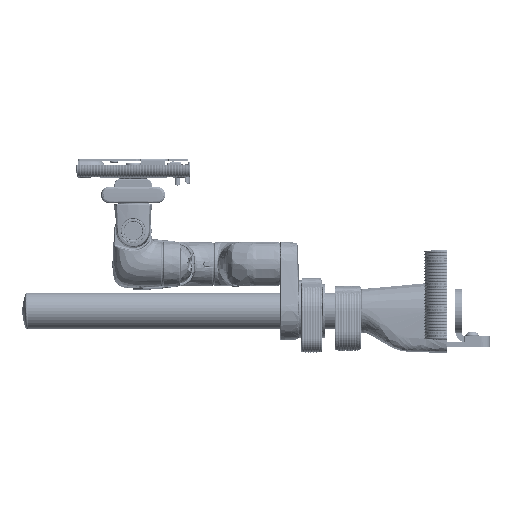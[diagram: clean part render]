
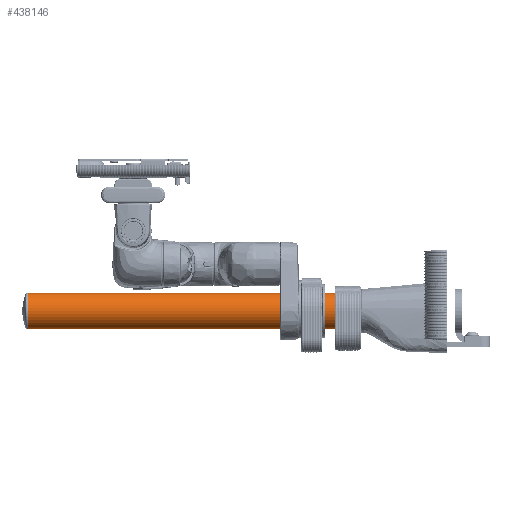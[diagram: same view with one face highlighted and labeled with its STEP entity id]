
A CAD part, left-side view. The second image highlights one B-rep face of the part: STEP entity #438146.
In plain terms, the highlighted cylindrical face has radius 19 mm (diameter 38 mm), a partial arc.
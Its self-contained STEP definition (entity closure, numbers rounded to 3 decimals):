
#5258=FACE_BOUND('',#75031,.T.);
#5259=FACE_BOUND('',#75032,.T.);
#29643=CYLINDRICAL_SURFACE('',#470233,19.);
#47470=FACE_OUTER_BOUND('',#75030,.T.);
#75030=EDGE_LOOP('',(#365718,#365719,#365720,#365721,#365722,#365723,#365724,
#365725,#365726,#365727,#365728,#365729));
#75031=EDGE_LOOP('',(#365730,#365731));
#75032=EDGE_LOOP('',(#365732,#365733));
#98963=B_SPLINE_CURVE_WITH_KNOTS('',3,(#942340,#942341,#942342,#942343),
 .UNSPECIFIED.,.F.,.F.,(4,4),(-0.84,-0.661),
 .UNSPECIFIED.);
#98966=B_SPLINE_CURVE_WITH_KNOTS('',3,(#942377,#942378,#942379,#942380),
 .UNSPECIFIED.,.F.,.F.,(4,4),(0.661,0.84),
 .UNSPECIFIED.);
#98967=B_SPLINE_CURVE_WITH_KNOTS('',3,(#942386,#942387,#942388,#942389),
 .UNSPECIFIED.,.F.,.F.,(4,4),(1.58,1.759),
 .UNSPECIFIED.);
#98970=B_SPLINE_CURVE_WITH_KNOTS('',3,(#942423,#942424,#942425,#942426),
 .UNSPECIFIED.,.F.,.F.,(4,4),(3.081,3.26),
 .UNSPECIFIED.);
#98981=B_SPLINE_CURVE_WITH_KNOTS('',3,(#942737,#942738,#942739,#942740,
#942741,#942742,#942743,#942744,#942745,#942746,#942747,#942748,#942749,
#942750),.UNSPECIFIED.,.F.,.F.,(4,2,2,2,2,2,4),(1.759,1.829,
2.124,2.42,2.701,2.983,3.08),
 .UNSPECIFIED.);
#98982=B_SPLINE_CURVE_WITH_KNOTS('',3,(#942754,#942755,#942756,#942757,
#942758,#942759,#942760,#942761,#942762,#942763,#942764,#942765,#942766,
#942767,#942768),.UNSPECIFIED.,.F.,.F.,(4,2,2,3,2,2,4),(-0.661,
-0.591,-0.295,0.,0.295,0.591,
0.661),.UNSPECIFIED.);
#114069=CIRCLE('',#470180,19.);
#114093=CIRCLE('',#470234,19.);
#114094=CIRCLE('',#470235,19.);
#114095=CIRCLE('',#470236,19.);
#135863=LINE('',#942670,#165184);
#135864=LINE('',#942679,#165185);
#135873=LINE('',#942753,#165194);
#135874=LINE('',#942769,#165195);
#165184=VECTOR('',#542876,10.);
#165185=VECTOR('',#542879,10.);
#165194=VECTOR('',#542906,10.);
#165195=VECTOR('',#542907,10.);
#202642=VERTEX_POINT('',#942336);
#202644=VERTEX_POINT('',#942339);
#202646=VERTEX_POINT('',#942360);
#202647=VERTEX_POINT('',#942362);
#202648=VERTEX_POINT('',#942382);
#202650=VERTEX_POINT('',#942385);
#202652=VERTEX_POINT('',#942406);
#202653=VERTEX_POINT('',#942408);
#202691=VERTEX_POINT('',#942510);
#202697=VERTEX_POINT('',#942522);
#202732=VERTEX_POINT('',#942668);
#202742=VERTEX_POINT('',#942751);
#202743=VERTEX_POINT('',#942770);
#202744=VERTEX_POINT('',#942771);
#202745=VERTEX_POINT('',#942773);
#202746=VERTEX_POINT('',#942774);
#259196=EDGE_CURVE('',#202644,#202642,#98963,.T.);
#259200=EDGE_CURVE('',#202646,#202647,#98966,.T.);
#259202=EDGE_CURVE('',#202650,#202648,#98967,.T.);
#259206=EDGE_CURVE('',#202652,#202653,#98970,.T.);
#259250=EDGE_CURVE('',#202697,#202691,#114069,.T.);
#259301=EDGE_CURVE('',#202732,#202653,#135863,.T.);
#259303=EDGE_CURVE('',#202650,#202697,#135864,.T.);
#259317=EDGE_CURVE('',#202648,#202652,#98981,.T.);
#259318=EDGE_CURVE('',#202742,#202732,#114093,.T.);
#259319=EDGE_CURVE('',#202644,#202742,#135873,.T.);
#259320=EDGE_CURVE('',#202642,#202646,#98982,.T.);
#259321=EDGE_CURVE('',#202691,#202647,#135874,.T.);
#259322=EDGE_CURVE('',#202743,#202744,#114094,.T.);
#259323=EDGE_CURVE('',#202745,#202746,#114095,.T.);
#365718=ORIENTED_EDGE('',*,*,#259202,.T.);
#365719=ORIENTED_EDGE('',*,*,#259317,.T.);
#365720=ORIENTED_EDGE('',*,*,#259206,.T.);
#365721=ORIENTED_EDGE('',*,*,#259301,.F.);
#365722=ORIENTED_EDGE('',*,*,#259318,.F.);
#365723=ORIENTED_EDGE('',*,*,#259319,.F.);
#365724=ORIENTED_EDGE('',*,*,#259196,.T.);
#365725=ORIENTED_EDGE('',*,*,#259320,.T.);
#365726=ORIENTED_EDGE('',*,*,#259200,.T.);
#365727=ORIENTED_EDGE('',*,*,#259321,.F.);
#365728=ORIENTED_EDGE('',*,*,#259250,.F.);
#365729=ORIENTED_EDGE('',*,*,#259303,.F.);
#365730=ORIENTED_EDGE('',*,*,#259322,.F.);
#365731=ORIENTED_EDGE('',*,*,#259322,.T.);
#365732=ORIENTED_EDGE('',*,*,#259323,.T.);
#365733=ORIENTED_EDGE('',*,*,#259323,.F.);
#438146=ADVANCED_FACE('',(#47470,#5258,#5259),#29643,.T.);
#470180=AXIS2_PLACEMENT_3D('',#942524,#542775,#542776);
#470233=AXIS2_PLACEMENT_3D('',#942736,#542902,#542903);
#470234=AXIS2_PLACEMENT_3D('',#942752,#542904,#542905);
#470235=AXIS2_PLACEMENT_3D('',#942772,#542908,#542909);
#470236=AXIS2_PLACEMENT_3D('',#942775,#542910,#542911);
#542775=DIRECTION('center_axis',(0.,1.,0.));
#542776=DIRECTION('ref_axis',(0.165,0.,0.986));
#542876=DIRECTION('',(0.,1.,0.));
#542879=DIRECTION('',(0.,1.,0.));
#542902=DIRECTION('center_axis',(0.,1.,0.));
#542903=DIRECTION('ref_axis',(0.,0.,
-1.));
#542904=DIRECTION('center_axis',(0.,-1.,0.));
#542905=DIRECTION('ref_axis',(0.165,0.,0.986));
#542906=DIRECTION('',(0.,-1.,0.));
#542907=DIRECTION('',(0.,-1.,0.));
#542908=DIRECTION('center_axis',(0.,1.,0.));
#542909=DIRECTION('ref_axis',(1.,0.,0.));
#542910=DIRECTION('center_axis',(0.,-1.,0.));
#542911=DIRECTION('ref_axis',(-1.,0.,0.));
#942336=CARTESIAN_POINT('',(-4.927,97.547,18.35));
#942339=CARTESIAN_POINT('',(-3.553,96.332,18.665));
#942340=CARTESIAN_POINT('Ctrl Pts',(-3.553,96.332,
18.665));
#942341=CARTESIAN_POINT('Ctrl Pts',(-4.063,96.681,18.568));
#942342=CARTESIAN_POINT('Ctrl Pts',(-4.526,97.097,18.458));
#942343=CARTESIAN_POINT('Ctrl Pts',(-4.927,97.547,
18.35));
#942360=CARTESIAN_POINT('',(-4.927,110.153,18.35));
#942362=CARTESIAN_POINT('',(-3.553,111.368,18.665));
#942377=CARTESIAN_POINT('Ctrl Pts',(-4.927,110.153,18.35));
#942378=CARTESIAN_POINT('Ctrl Pts',(-4.526,110.603,
18.458));
#942379=CARTESIAN_POINT('Ctrl Pts',(-4.063,111.019,18.568));
#942380=CARTESIAN_POINT('Ctrl Pts',(-3.553,111.368,
18.665));
#942382=CARTESIAN_POINT('',(4.927,110.153,18.35));
#942385=CARTESIAN_POINT('',(3.553,111.368,18.665));
#942386=CARTESIAN_POINT('Ctrl Pts',(3.553,111.368,18.665));
#942387=CARTESIAN_POINT('Ctrl Pts',(4.063,111.019,18.568));
#942388=CARTESIAN_POINT('Ctrl Pts',(4.526,110.603,18.458));
#942389=CARTESIAN_POINT('Ctrl Pts',(4.927,110.153,18.35));
#942406=CARTESIAN_POINT('',(4.927,97.547,18.35));
#942408=CARTESIAN_POINT('',(3.553,96.332,18.665));
#942423=CARTESIAN_POINT('Ctrl Pts',(4.927,97.547,18.35));
#942424=CARTESIAN_POINT('Ctrl Pts',(4.526,97.097,18.458));
#942425=CARTESIAN_POINT('Ctrl Pts',(4.063,96.681,18.568));
#942426=CARTESIAN_POINT('Ctrl Pts',(3.553,96.332,18.665));
#942510=CARTESIAN_POINT('',(-3.553,440.,18.665));
#942522=CARTESIAN_POINT('',(3.553,440.,18.665));
#942524=CARTESIAN_POINT('Origin',(0.,440.,0.));
#942668=CARTESIAN_POINT('',(3.553,90.,18.665));
#942670=CARTESIAN_POINT('',(3.553,90.,18.665));
#942679=CARTESIAN_POINT('',(3.553,90.,18.665));
#942736=CARTESIAN_POINT('Origin',(0.,90.,
0.));
#942737=CARTESIAN_POINT('Ctrl Pts',(4.927,110.153,18.35));
#942738=CARTESIAN_POINT('Ctrl Pts',(5.084,109.976,18.308));
#942739=CARTESIAN_POINT('Ctrl Pts',(5.232,109.794,18.266));
#942740=CARTESIAN_POINT('Ctrl Pts',(5.952,108.834,18.054));
#942741=CARTESIAN_POINT('Ctrl Pts',(6.436,107.895,17.88));
#942742=CARTESIAN_POINT('Ctrl Pts',(7.072,105.895,17.638));
#942743=CARTESIAN_POINT('Ctrl Pts',(7.223,104.835,17.573));
#942744=CARTESIAN_POINT('Ctrl Pts',(7.223,102.912,17.573));
#942745=CARTESIAN_POINT('Ctrl Pts',(7.086,101.9,17.632));
#942746=CARTESIAN_POINT('Ctrl Pts',(6.506,99.981,17.854));
#942747=CARTESIAN_POINT('Ctrl Pts',(6.063,99.073,18.015));
#942748=CARTESIAN_POINT('Ctrl Pts',(5.35,98.053,18.232));
#942749=CARTESIAN_POINT('Ctrl Pts',(5.147,97.795,18.291));
#942750=CARTESIAN_POINT('Ctrl Pts',(4.927,97.547,18.35));
#942751=CARTESIAN_POINT('',(-3.553,90.,18.665));
#942752=CARTESIAN_POINT('Origin',(0.,90.,0.));
#942753=CARTESIAN_POINT('',(-3.553,90.,18.665));
#942754=CARTESIAN_POINT('Ctrl Pts',(-4.927,97.547,
18.35));
#942755=CARTESIAN_POINT('Ctrl Pts',(-5.084,97.724,18.308));
#942756=CARTESIAN_POINT('Ctrl Pts',(-5.232,97.906,
18.266));
#942757=CARTESIAN_POINT('Ctrl Pts',(-5.952,98.866,
18.054));
#942758=CARTESIAN_POINT('Ctrl Pts',(-6.436,99.805,
17.88));
#942759=CARTESIAN_POINT('Ctrl Pts',(-7.072,101.805,
17.638));
#942760=CARTESIAN_POINT('Ctrl Pts',(-7.223,102.865,
17.573));
#942761=CARTESIAN_POINT('Ctrl Pts',(-7.223,103.85,17.573));
#942762=CARTESIAN_POINT('Ctrl Pts',(-7.223,104.835,
17.573));
#942763=CARTESIAN_POINT('Ctrl Pts',(-7.072,105.895,
17.638));
#942764=CARTESIAN_POINT('Ctrl Pts',(-6.436,107.895,
17.88));
#942765=CARTESIAN_POINT('Ctrl Pts',(-5.952,108.834,
18.054));
#942766=CARTESIAN_POINT('Ctrl Pts',(-5.232,109.794,
18.266));
#942767=CARTESIAN_POINT('Ctrl Pts',(-5.084,109.976,
18.308));
#942768=CARTESIAN_POINT('Ctrl Pts',(-4.927,110.153,18.35));
#942769=CARTESIAN_POINT('',(-3.553,90.,18.665));
#942770=CARTESIAN_POINT('',(-15.103,103.85,-11.529));
#942771=CARTESIAN_POINT('',(-12.523,103.85,14.289));
#942772=CARTESIAN_POINT('Origin',(0.,103.85,0.));
#942773=CARTESIAN_POINT('',(15.103,103.85,-11.529));
#942774=CARTESIAN_POINT('',(12.523,103.85,14.289));
#942775=CARTESIAN_POINT('Origin',(0.,103.85,0.));
